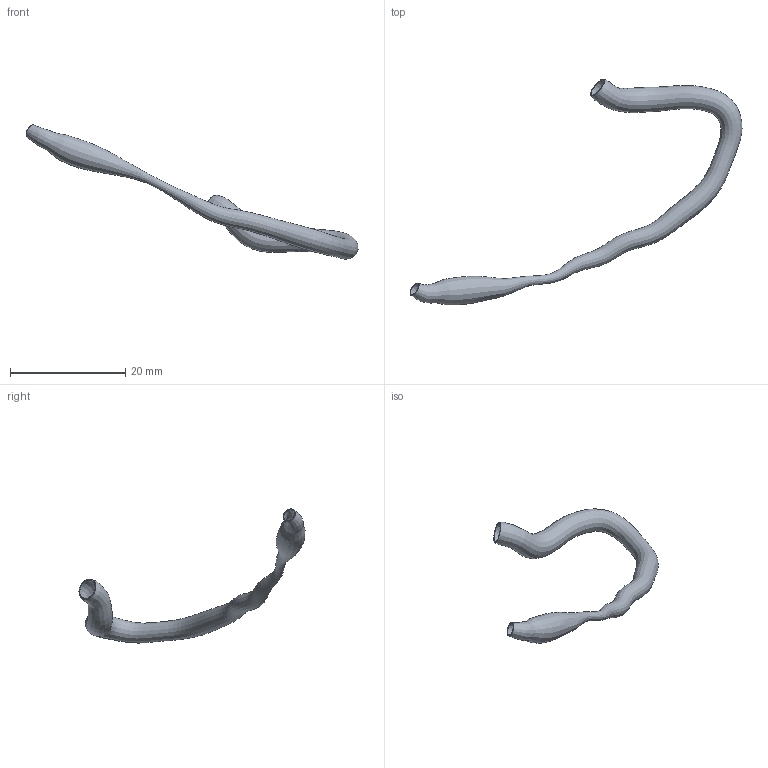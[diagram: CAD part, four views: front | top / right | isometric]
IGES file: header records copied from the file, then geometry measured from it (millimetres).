
Global section: file name: C:\Documents and Settings\Administrator\Desktop\FDA Bifurcation win\RawData_for_IGES\HRCA_Data\20010719.155526\IGES\20010719.155526.RCA.SEG.ED.igs; native system: Rhinoceros ( May 19 2006 ); preprocessor: Trout Lake IGES 012 May 19 2006; date: 100728.211836; units: centimetre
Bounding box: 57.69 x 39.28 x 23.29 mm (x, y, z)
Surface area: 2071.6 mm2 (no closed solid volume)
Topology: 0 solids, 0 shells, 4 faces, 12 edges, 8 vertices
Faces by surface type: bspline 4
